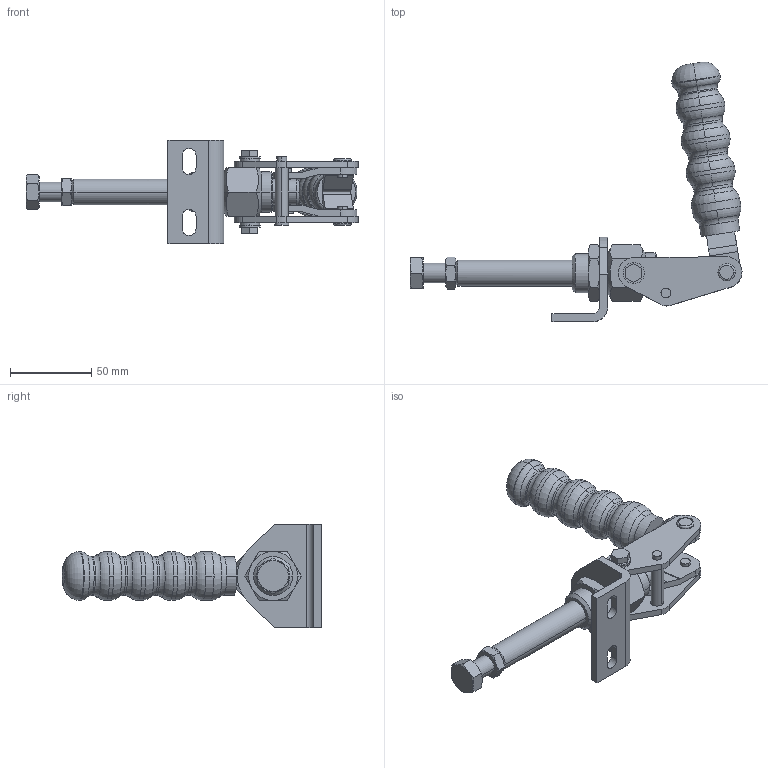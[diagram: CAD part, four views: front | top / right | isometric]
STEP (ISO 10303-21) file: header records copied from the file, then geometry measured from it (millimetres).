
FILE_DESCRIPTION( ( '' ), '1' );
FILE_NAME( '//partserver002.servicenet/client_exchange/iodir/jobs/output/wkb5782739_no7/STEP/p400_2_03.stp', '2006-11-29T10:46:24', ( '' ), ( '' ), ' ', ' ', ' ' );
FILE_SCHEMA( ( 'CONFIG_CONTROL_DESIGN' ) );
Length unit declared in the file: millimetre
Products named in the file (6): 1; 2; 3; 4; 5; 6
Bounding box: 204.09 x 159.72 x 63.5 mm (x, y, z)
Volume: 171973.1 mm3; surface area: 61077.6 mm2
Topology: 6 solids, 7 shells, 353 faces, 859 edges, 551 vertices
Faces by surface type: cylinder 126, plane 125, cone 60, torus 42
Entity records: 10907 total; most frequent: CARTESIAN_POINT 2203, DIRECTION 1901, ORIENTED_EDGE 1714, EDGE_CURVE 857, AXIS2_PLACEMENT_3D 781, VERTEX_POINT 551, EDGE_LOOP 406, CIRCLE 406
